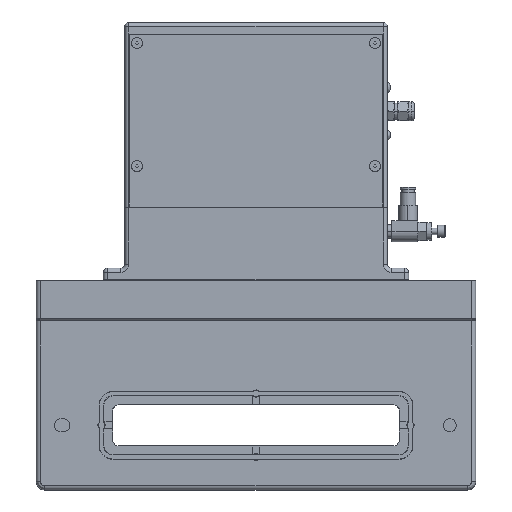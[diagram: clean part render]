
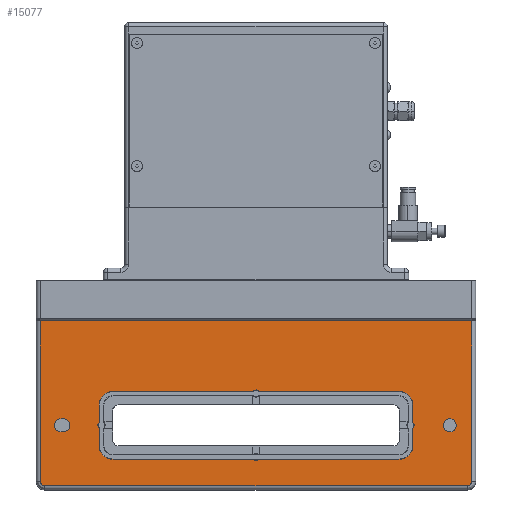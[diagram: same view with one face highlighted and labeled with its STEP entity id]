
A CAD part, top view. The second image highlights one B-rep face of the part: STEP entity #15077.
In plain terms, the highlighted planar face has unit normal (0, 0, 1).
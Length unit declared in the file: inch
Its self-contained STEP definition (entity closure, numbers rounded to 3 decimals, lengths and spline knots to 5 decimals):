
#136=CARTESIAN_POINT('',(5.906,0.,1.181));
#137=DIRECTION('',(0.,0.,-1.));
#138=DIRECTION('',(-1.,0.,0.));
#139=AXIS2_PLACEMENT_3D('',#136,#137,#138);
#141=CARTESIAN_POINT('',(5.906,0.,1.181));
#142=DIRECTION('',(0.,0.,-1.));
#143=DIRECTION('',(1.,0.,0.));
#144=AXIS2_PLACEMENT_3D('',#141,#142,#143);
#146=CARTESIAN_POINT('',(-5.942,0.,1.181));
#147=DIRECTION('',(0.,0.,1.));
#148=DIRECTION('',(0.,1.,0.));
#149=AXIS2_PLACEMENT_3D('',#146,#147,#148);
#151=DIRECTION('',(1.,0.,0.));
#152=VECTOR('',#151,0.072);
#153=CARTESIAN_POINT('',(-5.942,-0.2,1.181));
#154=LINE('',#153,#152);
#155=CARTESIAN_POINT('',(-5.87,0.,1.181));
#156=DIRECTION('',(0.,0.,1.));
#157=DIRECTION('',(0.,-1.,0.));
#158=AXIS2_PLACEMENT_3D('',#155,#156,#157);
#160=DIRECTION('',(-1.,0.,0.));
#161=VECTOR('',#160,0.072);
#162=CARTESIAN_POINT('',(-5.87,0.2,1.181));
#163=LINE('',#162,#161);
#164=DIRECTION('',(-1.,0.,0.));
#165=VECTOR('',#164,13.136);
#166=CARTESIAN_POINT('',(6.568,3.182,1.181));
#167=LINE('',#166,#165);
#168=DIRECTION('',(0.,1.,0.));
#169=VECTOR('',#168,4.9);
#170=CARTESIAN_POINT('',(6.568,-1.718,1.181));
#171=LINE('',#170,#169);
#172=CARTESIAN_POINT('',(6.443,-1.718,1.181));
#173=DIRECTION('',(0.,0.,1.));
#174=DIRECTION('',(0.,-1.,0.));
#175=AXIS2_PLACEMENT_3D('',#172,#173,#174);
#177=DIRECTION('',(1.,0.,0.));
#178=VECTOR('',#177,12.886);
#179=CARTESIAN_POINT('',(-6.443,-1.843,1.181));
#180=LINE('',#179,#178);
#181=CARTESIAN_POINT('',(-6.443,-1.718,1.181));
#182=DIRECTION('',(0.,0.,1.));
#183=DIRECTION('',(-1.,0.,0.));
#184=AXIS2_PLACEMENT_3D('',#181,#182,#183);
#186=DIRECTION('',(0.,-1.,0.));
#187=VECTOR('',#186,4.9);
#188=CARTESIAN_POINT('',(-6.568,3.182,1.181));
#189=LINE('',#188,#187);
#190=CARTESIAN_POINT('',(0.,0.967,1.181));
#191=DIRECTION('',(0.,0.,1.));
#192=DIRECTION('',(0.753,0.658,0.));
#193=AXIS2_PLACEMENT_3D('',#190,#191,#192);
#195=DIRECTION('',(1.,0.,0.));
#196=VECTOR('',#195,4.2735);
#197=CARTESIAN_POINT('',(-4.356,1.039,1.181));
#198=LINE('',#197,#196);
#199=CARTESIAN_POINT('',(-4.356,0.615,1.181));
#200=DIRECTION('',(0.,0.,-1.));
#201=DIRECTION('',(-1.,0.,0.));
#202=AXIS2_PLACEMENT_3D('',#199,#200,#201);
#204=DIRECTION('',(0.,1.,0.));
#205=VECTOR('',#204,0.5325);
#206=CARTESIAN_POINT('',(-4.78,0.0825,1.181));
#207=LINE('',#206,#205);
#208=DIRECTION('',(0.,1.,0.));
#209=VECTOR('',#208,0.5325);
#210=CARTESIAN_POINT('',(-4.78,-0.615,1.181));
#211=LINE('',#210,#209);
#212=CARTESIAN_POINT('',(-4.356,-0.615,1.181));
#213=DIRECTION('',(0.,0.,-1.));
#214=DIRECTION('',(0.,-1.,0.));
#215=AXIS2_PLACEMENT_3D('',#212,#213,#214);
#217=DIRECTION('',(-1.,0.,0.));
#218=VECTOR('',#217,4.2735);
#219=CARTESIAN_POINT('',(-0.0825,-1.039,1.181));
#220=LINE('',#219,#218);
#221=CARTESIAN_POINT('',(0.,-0.967,1.181));
#222=DIRECTION('',(0.,0.,1.));
#223=DIRECTION('',(-0.753,-0.658,0.));
#224=AXIS2_PLACEMENT_3D('',#221,#222,#223);
#226=DIRECTION('',(-1.,0.,0.));
#227=VECTOR('',#226,4.2735);
#228=CARTESIAN_POINT('',(4.356,-1.039,1.181));
#229=LINE('',#228,#227);
#230=CARTESIAN_POINT('',(4.356,-0.615,1.181));
#231=DIRECTION('',(0.,0.,-1.));
#232=DIRECTION('',(1.,0.,0.));
#233=AXIS2_PLACEMENT_3D('',#230,#231,#232);
#235=DIRECTION('',(0.,-1.,0.));
#236=VECTOR('',#235,0.5325);
#237=CARTESIAN_POINT('',(4.78,-0.0825,1.181));
#238=LINE('',#237,#236);
#239=DIRECTION('',(0.,-1.,0.));
#240=VECTOR('',#239,0.5325);
#241=CARTESIAN_POINT('',(4.78,0.615,1.181));
#242=LINE('',#241,#240);
#243=CARTESIAN_POINT('',(4.356,0.615,1.181));
#244=DIRECTION('',(0.,0.,-1.));
#245=DIRECTION('',(0.,1.,0.));
#246=AXIS2_PLACEMENT_3D('',#243,#244,#245);
#248=DIRECTION('',(1.,0.,0.));
#249=VECTOR('',#248,4.2735);
#250=CARTESIAN_POINT('',(0.0825,1.039,1.181));
#251=LINE('',#250,#249);
#10776=CARTESIAN_POINT('',(4.78,0.0825,1.181));
#10787=CARTESIAN_POINT('',(4.78,-0.0825,1.181));
#10809=CARTESIAN_POINT('',(4.708,0.,1.181));
#10810=DIRECTION('',(0.,0.,-1.));
#10811=DIRECTION('',(0.658,0.753,0.));
#10812=AXIS2_PLACEMENT_3D('',#10809,#10810,#10811);
#11290=CARTESIAN_POINT('',(-4.708,0.,1.181));
#11291=DIRECTION('',(0.,0.,-1.));
#11292=DIRECTION('',(-0.658,-0.753,0.));
#11293=AXIS2_PLACEMENT_3D('',#11290,#11291,#11292);
#11370=CARTESIAN_POINT('',(-4.78,0.0825,1.181));
#11408=CARTESIAN_POINT('',(-4.78,-0.0825,1.181));
#12124=CARTESIAN_POINT('',(4.356,1.039,1.181));
#12125=CARTESIAN_POINT('',(4.78,0.615,1.181));
#12126=VERTEX_POINT('',#12124);
#12127=VERTEX_POINT('',#12125);
#12132=CARTESIAN_POINT('',(4.78,-0.615,1.181));
#12133=CARTESIAN_POINT('',(4.356,-1.039,1.181));
#12134=VERTEX_POINT('',#12132);
#12135=VERTEX_POINT('',#12133);
#12140=CARTESIAN_POINT('',(-4.356,-1.039,1.181));
#12141=CARTESIAN_POINT('',(-4.78,-0.615,1.181));
#12142=VERTEX_POINT('',#12140);
#12143=VERTEX_POINT('',#12141);
#12148=CARTESIAN_POINT('',(-4.78,0.615,1.181));
#12149=CARTESIAN_POINT('',(-4.356,1.039,1.181));
#12150=VERTEX_POINT('',#12148);
#12151=VERTEX_POINT('',#12149);
#12160=CARTESIAN_POINT('',(5.706,0.,1.181));
#12161=CARTESIAN_POINT('',(6.106,0.,1.181));
#12162=VERTEX_POINT('',#12160);
#12163=VERTEX_POINT('',#12161);
#12172=CARTESIAN_POINT('',(-5.942,0.2,1.181));
#12173=CARTESIAN_POINT('',(-5.942,-0.2,1.181));
#12174=VERTEX_POINT('',#12172);
#12175=VERTEX_POINT('',#12173);
#12176=CARTESIAN_POINT('',(-5.87,-0.2,1.181));
#12177=VERTEX_POINT('',#12176);
#12178=CARTESIAN_POINT('',(-5.87,0.2,1.181));
#12179=VERTEX_POINT('',#12178);
#12212=CARTESIAN_POINT('',(6.443,-1.843,1.181));
#12213=CARTESIAN_POINT('',(6.568,-1.718,1.181));
#12214=VERTEX_POINT('',#12212);
#12215=VERTEX_POINT('',#12213);
#12220=CARTESIAN_POINT('',(-6.443,-1.843,1.181));
#12221=VERTEX_POINT('',#12220);
#12224=CARTESIAN_POINT('',(-6.568,-1.718,1.181));
#12225=VERTEX_POINT('',#12224);
#12716=CARTESIAN_POINT('',(-6.568,3.182,1.181));
#12718=VERTEX_POINT('',#12716);
#12730=CARTESIAN_POINT('',(6.568,3.182,1.181));
#12731=VERTEX_POINT('',#12730);
#14654=CARTESIAN_POINT('',(0.0825,1.039,1.181));
#14655=CARTESIAN_POINT('',(-0.0825,1.039,1.181));
#14656=VERTEX_POINT('',#14654);
#14657=VERTEX_POINT('',#14655);
#14658=CARTESIAN_POINT('',(-0.0825,-1.039,1.181));
#14659=CARTESIAN_POINT('',(0.0825,-1.039,1.181));
#14660=VERTEX_POINT('',#14658);
#14661=VERTEX_POINT('',#14659);
#14690=VERTEX_POINT('',#10776);
#14691=VERTEX_POINT('',#10787);
#14720=VERTEX_POINT('',#11370);
#14721=VERTEX_POINT('',#11408);
#15008=CARTESIAN_POINT('',(0.,0.,1.181));
#15009=DIRECTION('',(0.,0.,1.));
#15010=DIRECTION('',(1.,0.,0.));
#15011=AXIS2_PLACEMENT_3D('',#15008,#15009,#15010);
#15012=PLANE('',#15011);
#15014=ORIENTED_EDGE('',*,*,#15013,.F.);
#15016=ORIENTED_EDGE('',*,*,#15015,.F.);
#15018=ORIENTED_EDGE('',*,*,#15017,.F.);
#15020=ORIENTED_EDGE('',*,*,#15019,.F.);
#15022=ORIENTED_EDGE('',*,*,#15021,.F.);
#15024=ORIENTED_EDGE('',*,*,#15023,.F.);
#15025=EDGE_LOOP('',(#15014,#15016,#15018,#15020,#15022,#15024));
#15026=FACE_OUTER_BOUND('',#15025,.F.);
#15028=ORIENTED_EDGE('',*,*,#15027,.F.);
#15030=ORIENTED_EDGE('',*,*,#15029,.F.);
#15031=EDGE_LOOP('',(#15028,#15030));
#15032=FACE_BOUND('',#15031,.F.);
#15034=ORIENTED_EDGE('',*,*,#15033,.T.);
#15036=ORIENTED_EDGE('',*,*,#15035,.T.);
#15038=ORIENTED_EDGE('',*,*,#15037,.T.);
#15040=ORIENTED_EDGE('',*,*,#15039,.T.);
#15041=EDGE_LOOP('',(#15034,#15036,#15038,#15040));
#15042=FACE_BOUND('',#15041,.F.);
#15044=ORIENTED_EDGE('',*,*,#15043,.T.);
#15046=ORIENTED_EDGE('',*,*,#15045,.F.);
#15048=ORIENTED_EDGE('',*,*,#15047,.F.);
#15050=ORIENTED_EDGE('',*,*,#15049,.F.);
#15052=ORIENTED_EDGE('',*,*,#15051,.F.);
#15054=ORIENTED_EDGE('',*,*,#15053,.F.);
#15056=ORIENTED_EDGE('',*,*,#15055,.F.);
#15058=ORIENTED_EDGE('',*,*,#15057,.F.);
#15060=ORIENTED_EDGE('',*,*,#15059,.T.);
#15062=ORIENTED_EDGE('',*,*,#15061,.F.);
#15064=ORIENTED_EDGE('',*,*,#15063,.F.);
#15066=ORIENTED_EDGE('',*,*,#15065,.F.);
#15068=ORIENTED_EDGE('',*,*,#15067,.F.);
#15070=ORIENTED_EDGE('',*,*,#15069,.F.);
#15072=ORIENTED_EDGE('',*,*,#15071,.F.);
#15074=ORIENTED_EDGE('',*,*,#15073,.F.);
#15075=EDGE_LOOP('',(#15044,#15046,#15048,#15050,#15052,#15054,#15056,#15058,
#15060,#15062,#15064,#15066,#15068,#15070,#15072,#15074));
#15076=FACE_BOUND('',#15075,.F.);
#140=CIRCLE('',#139,0.2);
#145=CIRCLE('',#144,0.2);
#150=CIRCLE('',#149,0.2);
#159=CIRCLE('',#158,0.2);
#176=CIRCLE('',#175,0.125);
#185=CIRCLE('',#184,0.125);
#194=CIRCLE('',#193,0.1095);
#203=CIRCLE('',#202,0.424);
#216=CIRCLE('',#215,0.424);
#225=CIRCLE('',#224,0.1095);
#234=CIRCLE('',#233,0.424);
#247=CIRCLE('',#246,0.424);
#10813=CIRCLE('',#10812,0.1095);
#11294=CIRCLE('',#11293,0.1095);
#15013=EDGE_CURVE('',#12731,#12718,#167,.T.);
#15015=EDGE_CURVE('',#12215,#12731,#171,.T.);
#15017=EDGE_CURVE('',#12214,#12215,#176,.T.);
#15019=EDGE_CURVE('',#12221,#12214,#180,.T.);
#15021=EDGE_CURVE('',#12225,#12221,#185,.T.);
#15023=EDGE_CURVE('',#12718,#12225,#189,.T.);
#15027=EDGE_CURVE('',#12162,#12163,#140,.T.);
#15029=EDGE_CURVE('',#12163,#12162,#145,.T.);
#15033=EDGE_CURVE('',#12174,#12175,#150,.T.);
#15035=EDGE_CURVE('',#12175,#12177,#154,.T.);
#15037=EDGE_CURVE('',#12177,#12179,#159,.T.);
#15039=EDGE_CURVE('',#12179,#12174,#163,.T.);
#15043=EDGE_CURVE('',#14656,#14657,#194,.T.);
#15045=EDGE_CURVE('',#12151,#14657,#198,.T.);
#15047=EDGE_CURVE('',#12150,#12151,#203,.T.);
#15049=EDGE_CURVE('',#14720,#12150,#207,.T.);
#15051=EDGE_CURVE('',#14721,#14720,#11294,.T.);
#15053=EDGE_CURVE('',#12143,#14721,#211,.T.);
#15055=EDGE_CURVE('',#12142,#12143,#216,.T.);
#15057=EDGE_CURVE('',#14660,#12142,#220,.T.);
#15059=EDGE_CURVE('',#14660,#14661,#225,.T.);
#15061=EDGE_CURVE('',#12135,#14661,#229,.T.);
#15063=EDGE_CURVE('',#12134,#12135,#234,.T.);
#15065=EDGE_CURVE('',#14691,#12134,#238,.T.);
#15067=EDGE_CURVE('',#14690,#14691,#10813,.T.);
#15069=EDGE_CURVE('',#12127,#14690,#242,.T.);
#15071=EDGE_CURVE('',#12126,#12127,#247,.T.);
#15073=EDGE_CURVE('',#14656,#12126,#251,.T.);
#15077=ADVANCED_FACE('',(#15026,#15032,#15042,#15076),#15012,.T.);
